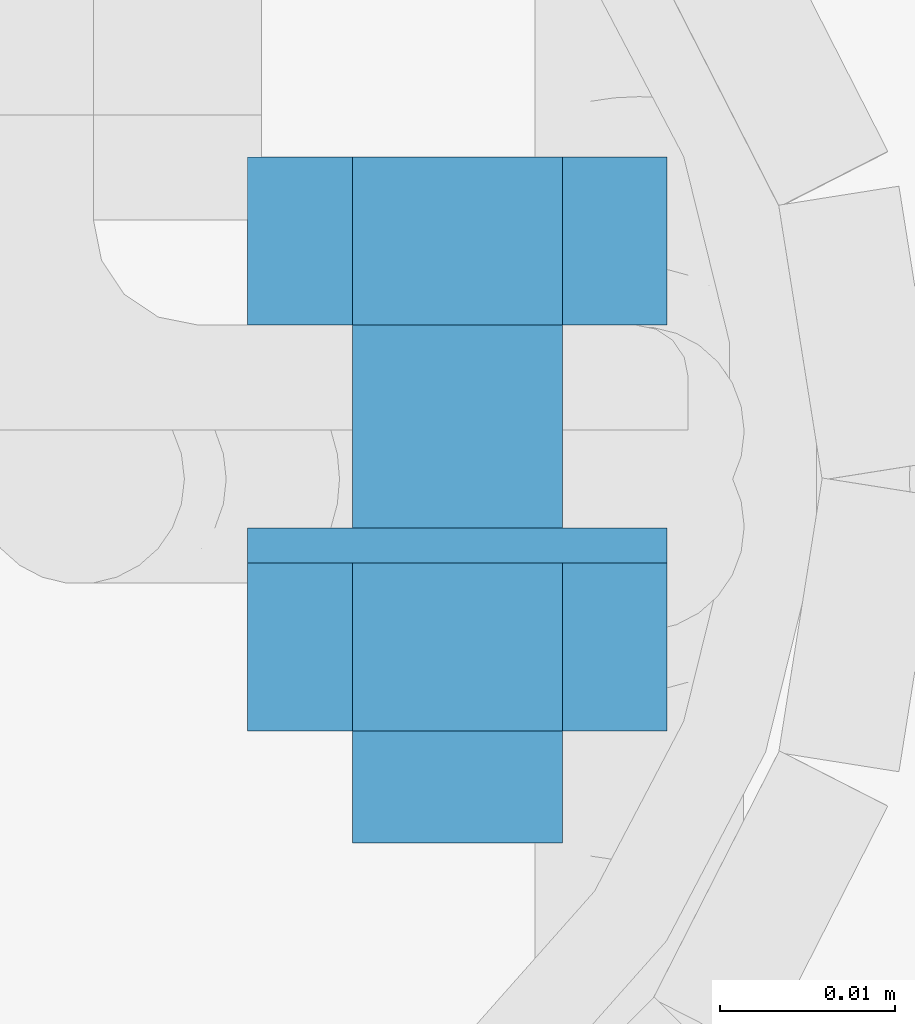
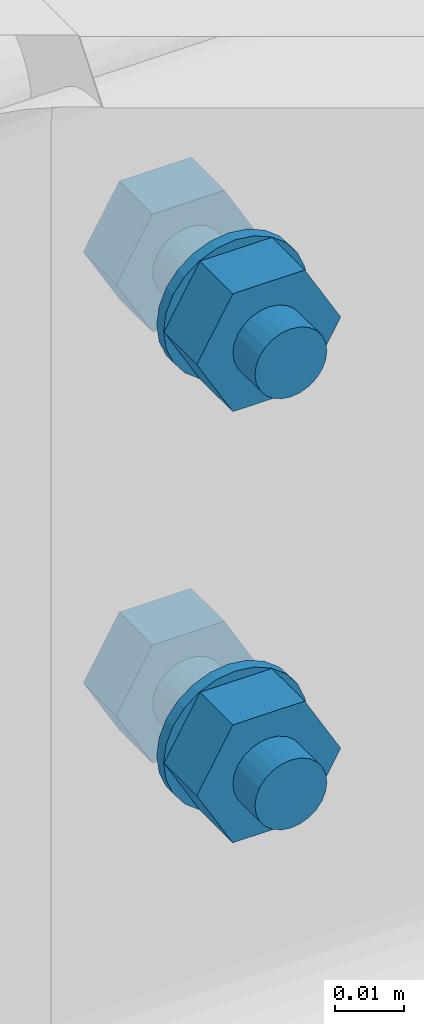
# One storey, part 43 of 84: 8 mechanical fasteners.
"""IFC4 building model written with IfcOpenShell, lengths in metres."""

from ifc_helpers import new_model, si_unit, frame, origin_with_axes, place, context, project, spatial, polyline, outline, extrude, type_object, element, save


model = new_model("IFC4")

# Units and contexts
model_context = context("Model", 3, precision=1e-05, world=origin_with_axes())
ifc_project = project(units=[si_unit("LENGTHUNIT", "METRE"), si_unit("AREAUNIT", "SQUARE_METRE"), si_unit("VOLUMEUNIT", "CUBIC_METRE"), si_unit("MASSUNIT", "GRAM", prefix="KILO"), si_unit("TIMEUNIT", "SECOND"), si_unit("PLANEANGLEUNIT", "RADIAN"), si_unit("SOLIDANGLEUNIT", "STERADIAN"), si_unit("THERMODYNAMICTEMPERATUREUNIT", "DEGREE_CELSIUS")], contexts=[model_context])

# Site, building, storey
placement_1 = place(None, origin_with_axes())
site = spatial("IfcSite", under=ifc_project, at=placement_1, Name="Italia", CompositionType="ELEMENT")
building = spatial("IfcBuilding", under=site, at=placement_1, Name="Tettoia", CompositionType="ELEMENT")
storey_placement = place(None, frame((0.0, 0.0, 4.199999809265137), z_axis=(0.0, 0.0, 1.0), x_axis=(1.0, 0.0, 0.0)))
storey = spatial("IfcBuildingStorey", under=building, at=storey_placement, Name="Storey 1", CompositionType="ELEMENT", Elevation=4.199999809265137)

# Mechanical fasteners
mechanical_fastener_type_1 = type_object("IfcMechanicalFastenerType", Name="Collegamento 0107_0111", PredefinedType="BOLT")
placement_2 = place(placement_1, origin_with_axes())
mechanical_fastener_1_placement = place(placement_2, origin_with_axes())
element("IfcMechanicalFastener", 1, at=mechanical_fastener_1_placement, inside=storey, type_object=mechanical_fastener_type_1, Name="Collegamento 0107_0111", NominalDiameter=0.0119999, context=model_context, shape_type="SweptSolid", body=[
    extrude(outline(polyline([(0.0, 0.0), (-0.012, 0.0), (-0.018, 0.0103922), (-0.012, 0.0207844), (0.0, 0.0207844), (0.006, 0.0103922), (0.0, 0.0)])), frame((0.1356, 9.9884, 4.25161), z_axis=(0.0, -1.0, 0.0), x_axis=(1.0, 0.0, 0.0)), (0.0, 0.0, 1.0), 0.00960064),
])
mechanical_fastener_type_2 = type_object("IfcMechanicalFastenerType", Name="Collegamento 0107_0111", PredefinedType="BOLT")
mechanical_fastener_2_placement = place(placement_2, origin_with_axes())
element("IfcMechanicalFastener", 2, at=mechanical_fastener_2_placement, inside=storey, type_object=mechanical_fastener_type_2, Name="Collegamento 0107_0111", NominalDiameter=0.012, context=model_context, shape_type="SweptSolid", body=[
    extrude(outline(polyline([(0.0, 0.0), (-0.000204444, -0.00155306), (-0.000803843, -0.00299978), (-0.00175735, -0.00424242), (-0.00299999, -0.00519609), (-0.00444709, -0.00579548), (-0.006, -0.00600004), (-0.00755291, -0.00579548), (-0.009, -0.00519609), (-0.0102426, -0.00424242), (-0.0111962, -0.00299978), (-0.0117956, -0.00155306), (-0.012, 0.0), (-0.0117956, 0.00155306), (-0.0111962, 0.00299978), (-0.0102426, 0.00424242), (-0.009, 0.00519609), (-0.00755291, 0.00579548), (-0.006, 0.00600004), (-0.00444709, 0.00579548), (-0.00299999, 0.00519609), (-0.00175735, 0.00424242), (-0.000803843, 0.00299978), (-0.000204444, 0.00155306), (0.0, 0.0)])), frame((0.1356, 9.9788, 4.262), z_axis=(0.0, -1.0, 0.0), x_axis=(1.0, 0.0, 0.0)), (0.0, 0.0, 1.0), 0.0295992),
])
mechanical_fastener_type_3 = type_object("IfcMechanicalFastenerType", Name="Collegamento 0107_0111", PredefinedType="BOLT")
mechanical_fastener_3_placement = place(placement_2, origin_with_axes())
element("IfcMechanicalFastener", 3, at=mechanical_fastener_3_placement, inside=storey, type_object=mechanical_fastener_type_3, Name="Collegamento 0107_0111", NominalDiameter=0.0119999, context=model_context, shape_type="SweptSolid", body=[
    extrude(outline(polyline([(0.0, 0.0), (-0.012, 0.0), (-0.018, 0.0103922), (-0.012, 0.0207844), (0.0, 0.0207844), (0.006, 0.0103922), (0.0, 0.0)])), frame((0.1356, 9.9652, 4.25161), z_axis=(0.0, -1.0, 0.0), x_axis=(1.0, 0.0, 0.0)), (0.0, 0.0, 1.0), 0.00960064),
])
mechanical_fastener_type_4 = type_object("IfcMechanicalFastenerType", Name="Collegamento 0107_0111", PredefinedType="BOLT")
mechanical_fastener_4_placement = place(placement_2, origin_with_axes())
element("IfcMechanicalFastener", 4, at=mechanical_fastener_4_placement, inside=storey, type_object=mechanical_fastener_type_4, Name="Collegamento 0107_0111", NominalDiameter=0.024, context=model_context, shape_type="SweptSolid", body=[
    extrude(outline(polyline([(0.0, 0.0), (-0.000408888, -0.00310564), (-0.00160769, -0.00600004), (-0.00351471, -0.00848532), (-0.006, -0.0103922), (-0.00889416, -0.011591), (-0.012, -0.0120001), (-0.0151058, -0.011591), (-0.018, -0.0103922), (-0.0204853, -0.00848532), (-0.0223923, -0.00600004), (-0.0235911, -0.00310564), (-0.024, 0.0), (-0.0235911, 0.00310564), (-0.0223923, 0.00600004), (-0.0204853, 0.00848532), (-0.018, 0.0103922), (-0.0151058, 0.011591), (-0.012, 0.0120001), (-0.00889416, 0.011591), (-0.006, 0.0103922), (-0.00351471, 0.00848532), (-0.00160769, 0.00600004), (-0.000408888, 0.00310564), (0.0, 0.0)])), frame((0.1416, 9.9672, 4.262), z_axis=(0.0, -1.0, 0.0), x_axis=(1.0, 0.0, 0.0)), (0.0, 0.0, 1.0), 0.00199986),
])
mechanical_fastener_type_5 = type_object("IfcMechanicalFastenerType", Name="Collegamento 0107_0111", PredefinedType="BOLT")
mechanical_fastener_5_placement = place(placement_2, origin_with_axes())
element("IfcMechanicalFastener", 5, at=mechanical_fastener_5_placement, inside=storey, type_object=mechanical_fastener_type_5, Name="Collegamento 0107_0111", NominalDiameter=0.0119999, context=model_context, shape_type="SweptSolid", body=[
    extrude(outline(polyline([(0.0, 0.0), (-0.012, 0.0), (-0.018, 0.0103922), (-0.012, 0.0207844), (0.0, 0.0207844), (0.006, 0.0103922), (0.0, 0.0)])), frame((0.1356, 9.9884, 4.32761), z_axis=(0.0, -1.0, 0.0), x_axis=(1.0, 0.0, 0.0)), (0.0, 0.0, 1.0), 0.00960064),
])
mechanical_fastener_type_6 = type_object("IfcMechanicalFastenerType", Name="Collegamento 0107_0111", PredefinedType="BOLT")
mechanical_fastener_6_placement = place(placement_2, origin_with_axes())
element("IfcMechanicalFastener", 6, at=mechanical_fastener_6_placement, inside=storey, type_object=mechanical_fastener_type_6, Name="Collegamento 0107_0111", NominalDiameter=0.012, context=model_context, shape_type="SweptSolid", body=[
    extrude(outline(polyline([(0.0, 0.0), (-0.000204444, -0.00155306), (-0.000803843, -0.00299978), (-0.00175735, -0.00424242), (-0.00299999, -0.00519609), (-0.00444709, -0.00579548), (-0.006, -0.00600004), (-0.00755291, -0.00579548), (-0.009, -0.00519609), (-0.0102426, -0.00424242), (-0.0111962, -0.00299978), (-0.0117956, -0.00155306), (-0.012, 0.0), (-0.0117956, 0.00155306), (-0.0111962, 0.00299978), (-0.0102426, 0.00424242), (-0.009, 0.00519609), (-0.00755291, 0.00579548), (-0.006, 0.00600004), (-0.00444709, 0.00579548), (-0.00299999, 0.00519609), (-0.00175735, 0.00424242), (-0.000803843, 0.00299978), (-0.000204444, 0.00155306), (0.0, 0.0)])), frame((0.1356, 9.9788, 4.338), z_axis=(0.0, -1.0, 0.0), x_axis=(1.0, 0.0, 0.0)), (0.0, 0.0, 1.0), 0.0295992),
])
mechanical_fastener_type_7 = type_object("IfcMechanicalFastenerType", Name="Collegamento 0107_0111", PredefinedType="BOLT")
mechanical_fastener_7_placement = place(placement_2, origin_with_axes())
element("IfcMechanicalFastener", 7, at=mechanical_fastener_7_placement, inside=storey, type_object=mechanical_fastener_type_7, Name="Collegamento 0107_0111", NominalDiameter=0.0119999, context=model_context, shape_type="SweptSolid", body=[
    extrude(outline(polyline([(0.0, 0.0), (-0.012, 0.0), (-0.018, 0.0103922), (-0.012, 0.0207844), (0.0, 0.0207844), (0.006, 0.0103922), (0.0, 0.0)])), frame((0.1356, 9.9652, 4.32761), z_axis=(0.0, -1.0, 0.0), x_axis=(1.0, 0.0, 0.0)), (0.0, 0.0, 1.0), 0.00960064),
])
mechanical_fastener_type_8 = type_object("IfcMechanicalFastenerType", Name="Collegamento 0107_0111", PredefinedType="BOLT")
mechanical_fastener_8_placement = place(placement_2, origin_with_axes())
element("IfcMechanicalFastener", 8, at=mechanical_fastener_8_placement, inside=storey, type_object=mechanical_fastener_type_8, Name="Collegamento 0107_0111", NominalDiameter=0.024, context=model_context, shape_type="SweptSolid", body=[
    extrude(outline(polyline([(0.0, 0.0), (-0.000408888, -0.00310564), (-0.00160769, -0.00600004), (-0.00351471, -0.00848532), (-0.006, -0.0103922), (-0.00889416, -0.011591), (-0.012, -0.0120001), (-0.0151058, -0.011591), (-0.018, -0.0103922), (-0.0204853, -0.00848532), (-0.0223923, -0.00600004), (-0.0235911, -0.00310564), (-0.024, 0.0), (-0.0235911, 0.00310564), (-0.0223923, 0.00600004), (-0.0204853, 0.00848532), (-0.018, 0.0103922), (-0.0151058, 0.011591), (-0.012, 0.0120001), (-0.00889416, 0.011591), (-0.006, 0.0103922), (-0.00351471, 0.00848532), (-0.00160769, 0.00600004), (-0.000408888, 0.00310564), (0.0, 0.0)])), frame((0.1416, 9.9672, 4.338), z_axis=(0.0, -1.0, 0.0), x_axis=(1.0, 0.0, 0.0)), (0.0, 0.0, 1.0), 0.00199986),
])

save(model, "model.ifc")
